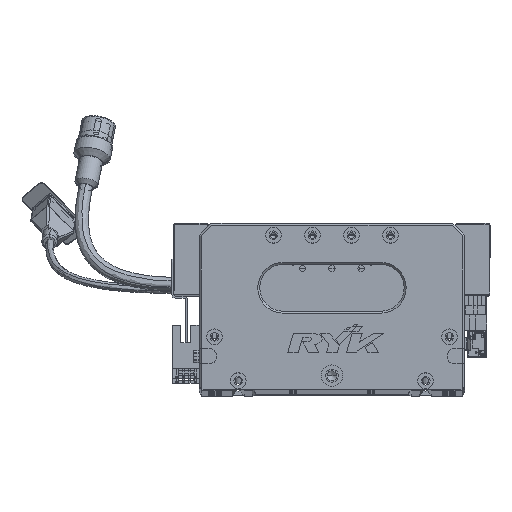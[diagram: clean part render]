
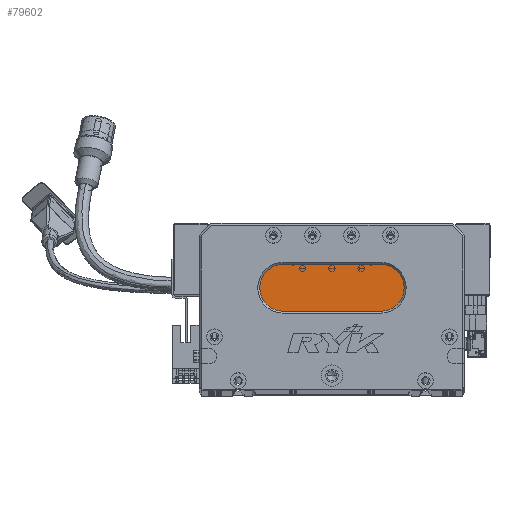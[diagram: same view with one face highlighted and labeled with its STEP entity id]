
A CAD part, top view. The second image highlights one B-rep face of the part: STEP entity #79602.
In plain terms, the highlighted planar face has unit normal (0, 0, 1) as drawn and (0, 0, -1) by its records, which use the part's own axes.
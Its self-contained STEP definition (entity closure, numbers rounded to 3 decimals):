
#416 = VERTEX_POINT ( 'NONE', #94711 ) ;
#446 = CARTESIAN_POINT ( 'NONE',  ( 93., 52., 13. ) ) ;
#463 = AXIS2_PLACEMENT_3D ( 'NONE', #40014, #38898, #6263 ) ;
#581 = LINE ( 'NONE', #55114, #87007 ) ;
#1122 = DIRECTION ( 'NONE',  ( -1., 0., 0. ) ) ;
#6263 = DIRECTION ( 'NONE',  ( -1., 0., 0. ) ) ;
#6362 = DIRECTION ( 'NONE',  ( 1., 0., 0. ) ) ;
#7148 = FACE_OUTER_BOUND ( 'NONE', #82690, .T. ) ;
#8162 = DIRECTION ( 'NONE',  ( 0., 0., -1. ) ) ;
#14532 = CARTESIAN_POINT ( 'NONE',  ( 43., 40., 13. ) ) ;
#15483 = LINE ( 'NONE', #50991, #33914 ) ;
#17579 = DIRECTION ( 'NONE',  ( -1., 0., 0. ) ) ;
#18411 = EDGE_CURVE ( 'NONE', #37797, #108696, #26967, .T. ) ;
#21315 = CARTESIAN_POINT ( 'NONE',  ( 43., 52., 13. ) ) ;
#26258 = EDGE_CURVE ( 'NONE', #39465, #416, #58129, .T. ) ;
#26967 = CIRCLE ( 'NONE', #27442, 12. ) ;
#27358 = VERTEX_POINT ( 'NONE', #14532 ) ;
#27442 = AXIS2_PLACEMENT_3D ( 'NONE', #21315, #46662, #29783 ) ;
#29783 = DIRECTION ( 'NONE',  ( -1., 0., 0. ) ) ;
#32082 = AXIS2_PLACEMENT_3D ( 'NONE', #32717, #39334, #17579 ) ;
#32717 = CARTESIAN_POINT ( 'NONE',  ( 43., 52., 13. ) ) ;
#33914 = VECTOR ( 'NONE', #1122, 1000. ) ;
#33966 = CARTESIAN_POINT ( 'NONE',  ( 31., 52., 13. ) ) ;
#34658 = CARTESIAN_POINT ( 'NONE',  ( 93., 64., 13. ) ) ;
#37797 = VERTEX_POINT ( 'NONE', #33966 ) ;
#38898 = DIRECTION ( 'NONE',  ( 0., 0., -1. ) ) ;
#39334 = DIRECTION ( 'NONE',  ( 0., 0., -1. ) ) ;
#39465 = VERTEX_POINT ( 'NONE', #34658 ) ;
#40014 = CARTESIAN_POINT ( 'NONE',  ( 93., 52., 13. ) ) ;
#46662 = DIRECTION ( 'NONE',  ( 0., 0., -1. ) ) ;
#50651 = EDGE_CURVE ( 'NONE', #108696, #39465, #581, .T. ) ;
#50991 = CARTESIAN_POINT ( 'NONE',  ( 93., 40., 13. ) ) ;
#55114 = CARTESIAN_POINT ( 'NONE',  ( 93., 64., 13. ) ) ;
#58129 = CIRCLE ( 'NONE', #94636, 12. ) ;
#60035 = CARTESIAN_POINT ( 'NONE',  ( 43., 64., 13. ) ) ;
#75181 = DIRECTION ( 'NONE',  ( -1., 0., 0. ) ) ;
#77533 = ORIENTED_EDGE ( 'NONE', *, *, #95182, .T. ) ;
#79602 = ADVANCED_FACE ( 'NONE', ( #7148 ), #106568, .T. ) ;
#81178 = ORIENTED_EDGE ( 'NONE', *, *, #89787, .T. ) ;
#82690 = EDGE_LOOP ( 'NONE', ( #99617, #77533, #81178, #101425, #105993 ) ) ;
#87007 = VECTOR ( 'NONE', #6362, 1000. ) ;
#89787 = EDGE_CURVE ( 'NONE', #27358, #37797, #103065, .T. ) ;
#94636 = AXIS2_PLACEMENT_3D ( 'NONE', #446, #8162, #75181 ) ;
#94711 = CARTESIAN_POINT ( 'NONE',  ( 93., 40., 13. ) ) ;
#95182 = EDGE_CURVE ( 'NONE', #416, #27358, #15483, .T. ) ;
#99617 = ORIENTED_EDGE ( 'NONE', *, *, #26258, .T. ) ;
#101425 = ORIENTED_EDGE ( 'NONE', *, *, #18411, .T. ) ;
#103065 = CIRCLE ( 'NONE', #32082, 12. ) ;
#105993 = ORIENTED_EDGE ( 'NONE', *, *, #50651, .T. ) ;
#106568 = PLANE ( 'NONE',  #463 ) ;
#108696 = VERTEX_POINT ( 'NONE', #60035 ) ;
